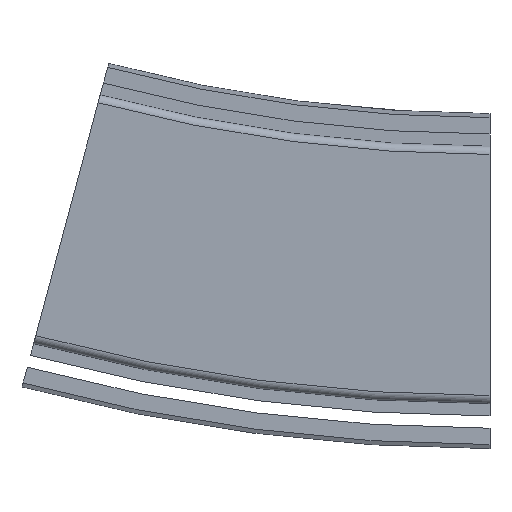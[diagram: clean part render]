
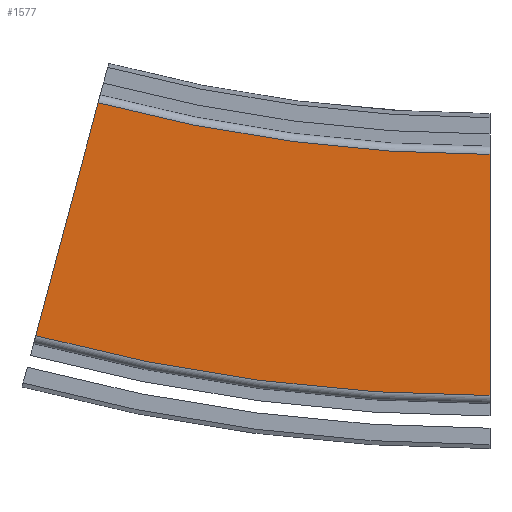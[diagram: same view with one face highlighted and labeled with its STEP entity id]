
A CAD part, left-side view. The second image highlights one B-rep face of the part: STEP entity #1577.
In plain terms, the highlighted planar face has unit normal (-1, 0, 0).
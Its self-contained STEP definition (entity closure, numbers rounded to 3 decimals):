
#126=PLANE('',#1712);
#200=FACE_OUTER_BOUND('',#292,.T.);
#292=EDGE_LOOP('',(#1300,#1301,#1302,#1303));
#360=CIRCLE('',#1711,370.5);
#361=CIRCLE('',#1713,429.5);
#464=LINE('',#7158,#590);
#465=LINE('',#7160,#591);
#590=VECTOR('',#2010,10.);
#591=VECTOR('',#2011,10.);
#750=VERTEX_POINT('',#7151);
#751=VERTEX_POINT('',#7153);
#752=VERTEX_POINT('',#7157);
#753=VERTEX_POINT('',#7159);
#950=EDGE_CURVE('',#750,#751,#360,.T.);
#951=EDGE_CURVE('',#752,#750,#464,.T.);
#952=EDGE_CURVE('',#753,#751,#465,.T.);
#953=EDGE_CURVE('',#752,#753,#361,.T.);
#1300=ORIENTED_EDGE('',*,*,#951,.T.);
#1301=ORIENTED_EDGE('',*,*,#950,.T.);
#1302=ORIENTED_EDGE('',*,*,#952,.F.);
#1303=ORIENTED_EDGE('',*,*,#953,.F.);
#1577=ADVANCED_FACE('',(#200),#126,.T.);
#1711=AXIS2_PLACEMENT_3D('',#7155,#2006,#2007);
#1712=AXIS2_PLACEMENT_3D('',#7156,#2008,#2009);
#1713=AXIS2_PLACEMENT_3D('',#7161,#2012,#2013);
#2006=DIRECTION('center_axis',(1.,0.,0.));
#2007=DIRECTION('ref_axis',(0.,0.,-1.));
#2008=DIRECTION('center_axis',(-1.,0.,0.));
#2009=DIRECTION('ref_axis',(0.,0.,1.));
#2010=DIRECTION('',(0.,0.,1.));
#2011=DIRECTION('',(0.,-0.259,0.966));
#2012=DIRECTION('center_axis',(1.,0.,0.));
#2013=DIRECTION('ref_axis',(0.,0.,-1.));
#7151=CARTESIAN_POINT('',(-43.,0.,29.5));
#7153=CARTESIAN_POINT('',(-43.,95.892,42.124));
#7155=CARTESIAN_POINT('Origin',(-43.,0.,400.));
#7156=CARTESIAN_POINT('Origin',(-43.,0.,-29.5));
#7157=CARTESIAN_POINT('',(-43.,0.,-29.5));
#7158=CARTESIAN_POINT('',(-43.,0.,-29.5));
#7159=CARTESIAN_POINT('',(-43.,111.163,-14.865));
#7160=CARTESIAN_POINT('',(-43.,111.163,-14.865));
#7161=CARTESIAN_POINT('Origin',(-43.,0.,400.));
